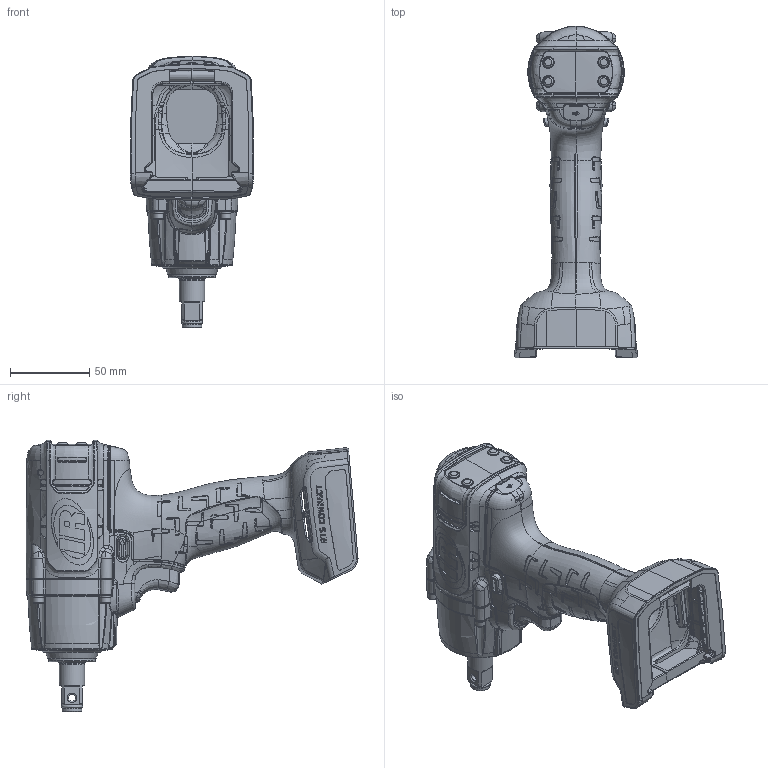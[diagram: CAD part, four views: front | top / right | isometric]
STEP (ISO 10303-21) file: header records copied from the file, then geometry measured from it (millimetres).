
FILE_DESCRIPTION(/* description */ (''),/* implementation_level */ '2;1');
FILE_NAME(/* name */ 'ring all.stp',/* time_stamp */ '2024-03-01T16:30:44+08:00',/* author */ (''),/* organization */ (''),/* preprocessor_version */ 'ST-DEVELOPER v14',/* originating_system */ 'SIEMENS PLM Software NX 8.0',/* authorisation */ '');
FILE_SCHEMA (('CONFIG_CONTROL_DESIGN'));
Products named in the file (1): _model1
Bounding box: 77.93 x 210.09 x 171.98 mm (x, y, z)
Volume: 550216.8 mm3; surface area: 102512.4 mm2
Topology: 26 solids, 52 shells, 5341 faces, 13748 edges, 8562 vertices
Faces by surface type: bspline 3072, plane 1029, cylinder 630, extrusion 378, cone 129, torus 74, sphere 22, revolution 7
Full cylindrical faces by diameter (mm): 1.66 x2, 2 x1, 2.9 x5, 3.1 x4, 3.9 x4, 4.5 x1, 6.4 x4, 6.6 x4, 8.5 x1, 10.5 x2, 12.57 x1, 15.6 x1, 16 x1, 17 x1, 29.5 x1, 45 x1
Entity records: 389127 total; most frequent: CARTESIAN_POINT 286424, ORIENTED_EDGE 27142, EDGE_CURVE 13571, DIRECTION 11908, B_SPLINE_CURVE_WITH_KNOTS 8709, VERTEX_POINT 8508, EDGE_LOOP 5572, ADVANCED_FACE 5341
